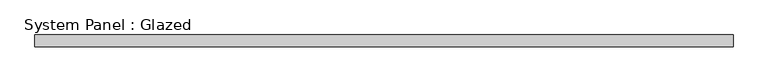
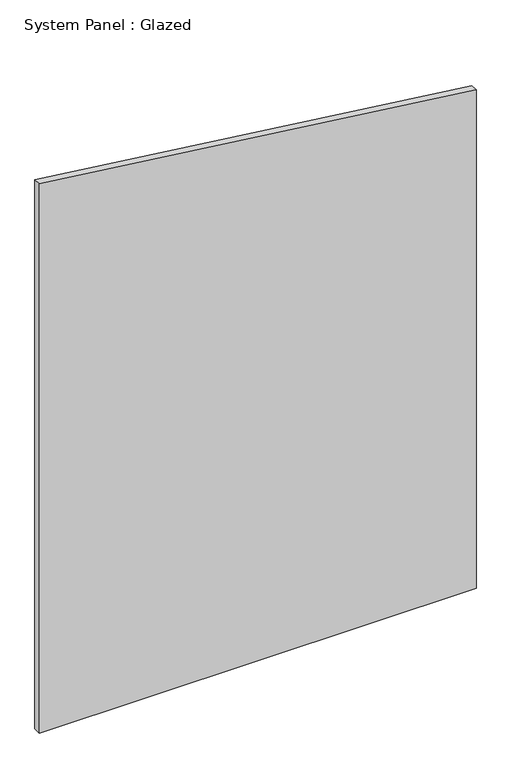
"""IFC4 building model written with IfcOpenShell, lengths in millimetres: plate geometry, System Panel : Glazed."""

from ifc_helpers import new_model, si_unit, frame, origin, place, context, project, spatial, polyline, outline, extrude, source, transform, mapped, element, save


def system_panel_glazed_34110132(model_context):
    return source(origin(), model_context, "Body", "SweptSolid", [
        extrude(outline(polyline([(0.0, -726.9631579), (0.0, 726.9631579), (1754.2774812, 726.9631579), (1932.7971855, -726.9631579), (0.0, -726.9631579)])), frame((0.0, 24.5, 0.0), z_axis=(0.0, 1.0, 0.0), x_axis=(0.0, 0.0, 1.0)), (0.0, 0.0, 1.0), 25.0),
    ])


if __name__ == "__main__":
    model = new_model("IFC4")
    model_context = context("Model", 3, world=origin())
    ifc_project = project(units=[si_unit("LENGTHUNIT", "METRE", prefix="MILLI")], contexts=[model_context])
    site = spatial("IfcSite", under=ifc_project)
    building = spatial("IfcBuilding", under=site)
    placement = place(None, origin())
    system_panel_glazed_shape = system_panel_glazed_34110132(model_context)
    element("IfcPlate", 1, ObjectType="System Panel : Glazed", at=placement, inside=building, context=model_context, shape_type="MappedRepresentation", body=[
        mapped(system_panel_glazed_shape, transform((0.0, 0.0, 0.0), x_axis=(1.0, 0.0, 0.0), y_axis=(0.0, 1.0, 0.0), z_axis=(0.0, 0.0, 1.0))),
    ])
    save(model, "model.ifc")
